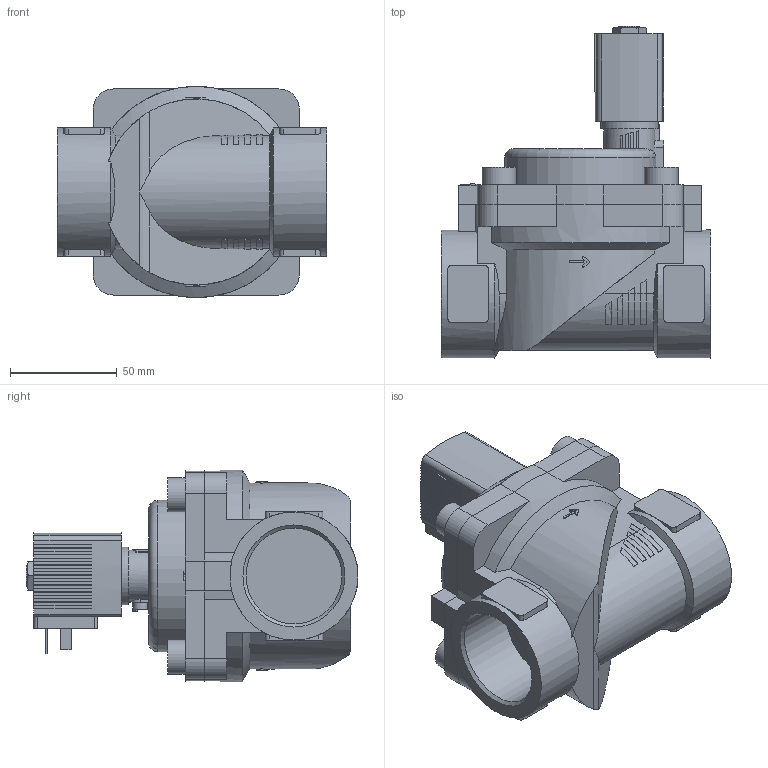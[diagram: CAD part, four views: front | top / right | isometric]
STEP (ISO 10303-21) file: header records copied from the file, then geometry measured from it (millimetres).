
FILE_DESCRIPTION(/* description */ ('STEP AP214'),/* implementation_level */ '2;1');
FILE_NAME(/* name */ '6281-372913-2_2-Way_Solenoid_Valve__Servo-assisted__General_Purpose',/* time_stamp */ '2024-07-02T11:45:37+02:00',/* author */ ('License CC BY-ND 4.0'),/* organization */ ('CADENAS'),/* preprocessor_version */ 'ST-DEVELOPER v19.3',/* originating_system */ 'PARTsolutions',/* authorisation */ ' ');
FILE_SCHEMA (('AUTOMOTIVE_DESIGN {1 0 10303 214 3 1 1}'));
Length unit declared in the file: millimetre
Products named in the file (4): 6281-372913-2/2-Way Solenoid Valve, Servo-assisted, General Purpose; 5281ev401MS2/2-Wege-Magnetventil mit Servomembran-Deckel 99 ; 6213-40G1_1/2MS-Gehaeuse-; AC10ex-5OO-Plan-Coil
Assembly tree (3 placements, depth 2):
  6281-372913-2/2-Way Solenoid Valve, Servo-assisted, General Purpose
    5281ev401MS2/2-Wege-Magnetventil mit Servomembran-Deckel 99 
    6213-40G1_1/2MS-Gehaeuse-
    AC10ex-5OO-Plan-Coil
Bounding box: 126 x 155.5 x 99 mm (x, y, z)
Volume: 671534.4 mm3; surface area: 94110.5 mm2
Topology: 3 solids, 3 shells, 562 faces, 1569 edges, 1041 vertices
Faces by surface type: plane 448, cylinder 98, cone 15, torus 1
Full cylindrical faces by diameter (mm): 2.013 x1, 6.8 x1, 9.74 x1, 16 x4, 27 x1, 44.845 x2, 60 x2
Entity records: 20735 total; most frequent: CARTESIAN_POINT 3416, ORIENTED_EDGE 3088, DIRECTION 2934, EDGE_CURVE 1544, LINE 1146, VECTOR 1146, VERTEX_POINT 1032, AXIS2_PLACEMENT_3D 894
